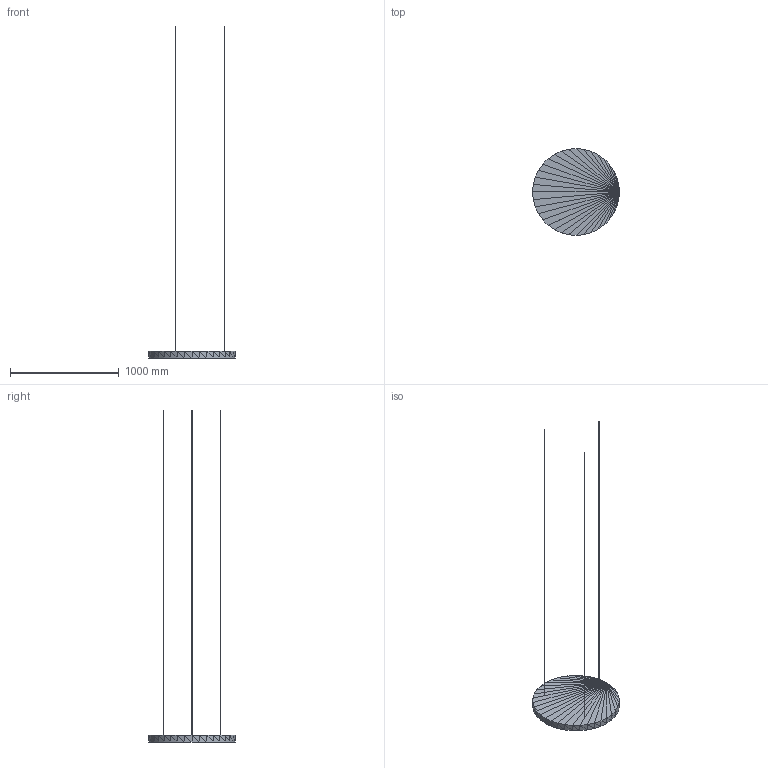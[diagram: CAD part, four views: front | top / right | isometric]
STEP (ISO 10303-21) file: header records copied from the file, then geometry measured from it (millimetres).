
FILE_DESCRIPTION(('ISINAC STEP AP214'),'2;1');
FILE_NAME('ISINAC_CIR.800_60mm_COLGADO','2026-05-03T10:49:20',('ISINAC'),('www.isinac.com'),'ISINAC BIM Generator 1.0','','');
FILE_SCHEMA(('AUTOMOTIVE_DESIGN'));
Length unit declared in the file: millimetre
Products named in the file (1): ISINAC_CIR.800_60mm_COLGADO
Bounding box: 800 x 800 x 3060 mm (x, y, z)
Surface area: 1231853.9 mm2 (no closed solid volume)
Topology: 0 solids, 200 shells, 200 faces, 600 edges, 600 vertices
Faces by surface type: plane 200
Entity records: 2213 total; most frequent: CARTESIAN_POINT 800, DIRECTION 400, POLY_LOOP 200, FACE_OUTER_BOUND 200, AXIS2_PLACEMENT_3D 200, PLANE 200, FACE_SURFACE 200, CLOSED_SHELL 1
